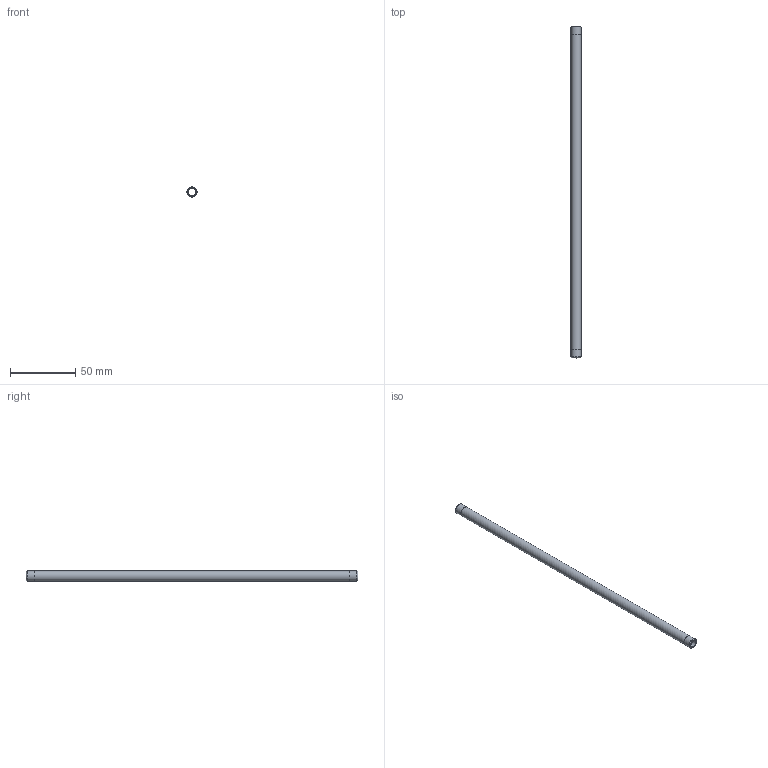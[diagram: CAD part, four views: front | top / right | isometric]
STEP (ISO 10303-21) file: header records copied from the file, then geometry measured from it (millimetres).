
FILE_DESCRIPTION(/* description */ (''),/* implementation_level */ '2;1');
FILE_NAME(/* name */ 'C:/Users/drich/Desktop/SSPN16-10 v1.step',/* time_stamp */ '2020-01-04T13:23:55-06:00',/* author */ (''),/* organization */ (''),/* preprocessor_version */ 'ST-DEVELOPER v18',/* originating_system */ 'Autodesk Translation Framework v8.12.0.6',/* authorisation */ '');
FILE_SCHEMA (('AUTOMOTIVE_DESIGN { 1 0 10303 214 3 1 1 }'));
Length unit declared in the file: inch
Products named in the file (1): SSPN16-10
Bounding box: 7.92 x 254 x 7.92 mm (x, y, z)
Volume: 6885.2 mm3; surface area: 10588.5 mm2
Topology: 1 solids, 1 shells, 10 faces, 24 edges, 18 vertices
Faces by surface type: cylinder 4, plane 4, cone 2
Full cylindrical faces by diameter (mm): 5.309 x1, 7.874 x2, 7.925 x1
Entity records: 353 total; most frequent: DIRECTION 64, CARTESIAN_POINT 53, ORIENTED_EDGE 48, AXIS2_PLACEMENT_3D 29, EDGE_CURVE 24, CIRCLE 18, VERTEX_POINT 18, EDGE_LOOP 14
